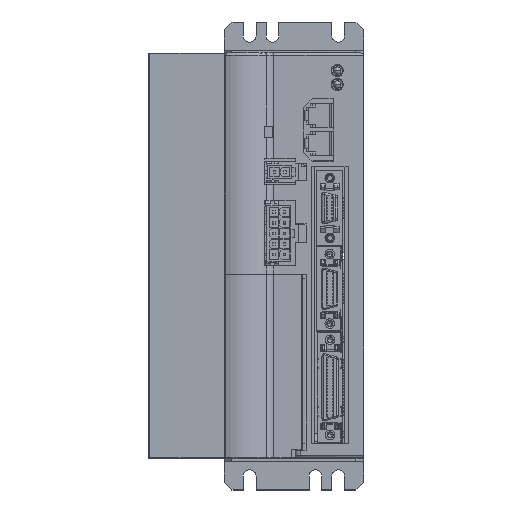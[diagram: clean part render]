
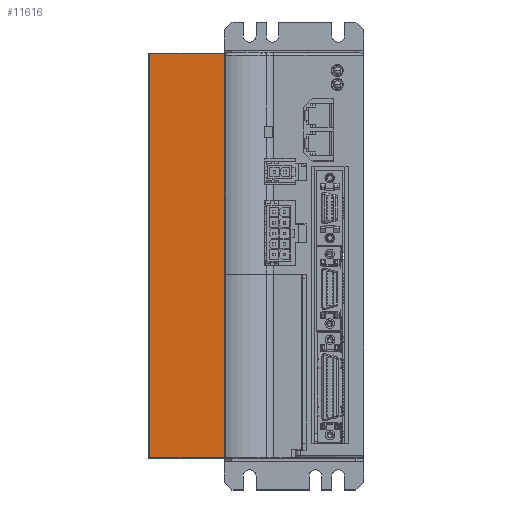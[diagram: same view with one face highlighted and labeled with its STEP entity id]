
A CAD part, top view. The second image highlights one B-rep face of the part: STEP entity #11616.
In plain terms, the highlighted planar face has unit normal (0, 0, 1).
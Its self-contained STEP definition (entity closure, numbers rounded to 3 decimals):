
#11616=ADVANCED_FACE('',(#44088),#44087,.T.);
#44087=PLANE('',#70406);
#44088=FACE_OUTER_BOUND('',#70407,.T.);
#70403=CARTESIAN_POINT('',(-39.55,-169.5,-14.9));
#70404=DIRECTION('',(0.,0.,1.));
#70405=DIRECTION('',(1.,0.,0.));
#70406=AXIS2_PLACEMENT_3D('',#70403,#70404,#70405);
#70407=EDGE_LOOP('',(#93007,#93008,#93009,#93010));
#93007=ORIENTED_EDGE('',*,*,#106837,.F.);
#93008=ORIENTED_EDGE('',*,*,#106951,.F.);
#93009=ORIENTED_EDGE('',*,*,#106838,.T.);
#93010=ORIENTED_EDGE('',*,*,#106713,.T.);
#106713=EDGE_CURVE('',#166056,#166048,#166057,.T.);
#106837=EDGE_CURVE('',#166915,#166048,#166922,.T.);
#106838=EDGE_CURVE('',#166928,#166056,#166929,.T.);
#106951=EDGE_CURVE('',#166928,#166915,#167716,.T.);
#166048=VERTEX_POINT('',#220979);
#166056=VERTEX_POINT('',#220984);
#166057=LINE('',#220985,#220986);
#166915=VERTEX_POINT('',#221537);
#166922=LINE('',#221542,#221543);
#166928=VERTEX_POINT('',#221545);
#166929=LINE('',#221546,#221547);
#167716=LINE('',#222049,#222050);
#220979=CARTESIAN_POINT('',(-7.1,0.5,-14.9));
#220984=CARTESIAN_POINT('',(-7.1,-159.5,-14.9));
#220985=CARTESIAN_POINT('',(-7.1,-159.5,-14.9));
#220986=VECTOR('',#220987,160.);
#220987=DIRECTION('',(0.,1.,0.));
#221537=CARTESIAN_POINT('',(-36.6,0.5,-14.9));
#221542=CARTESIAN_POINT('',(-36.6,0.5,-14.9));
#221543=VECTOR('',#221544,29.5);
#221544=DIRECTION('',(1.,0.,0.));
#221545=CARTESIAN_POINT('',(-36.6,-159.5,-14.9));
#221546=CARTESIAN_POINT('',(-36.6,-159.5,-14.9));
#221547=VECTOR('',#221548,29.5);
#221548=DIRECTION('',(1.,0.,0.));
#222049=CARTESIAN_POINT('',(-36.6,-159.5,-14.9));
#222050=VECTOR('',#222051,160.);
#222051=DIRECTION('',(0.,1.,0.));
